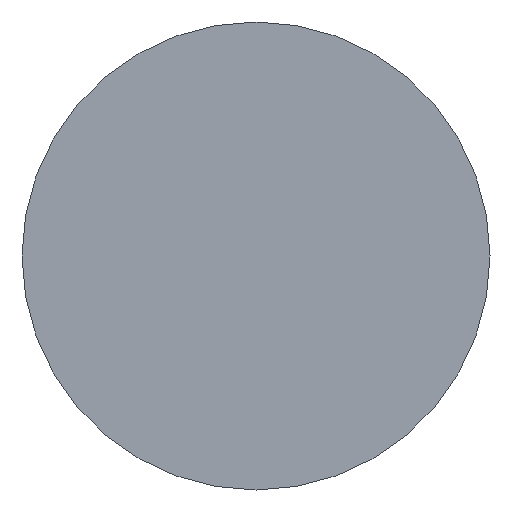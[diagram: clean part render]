
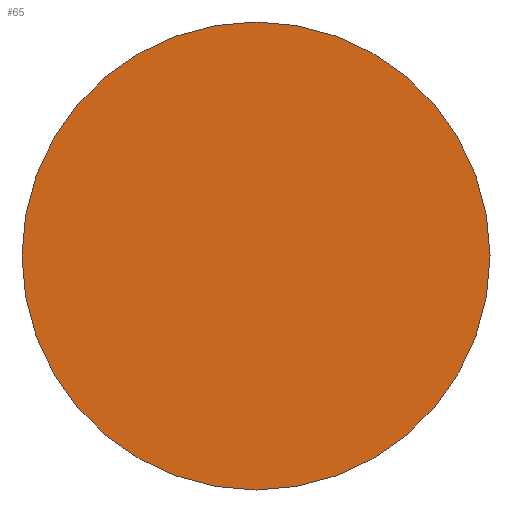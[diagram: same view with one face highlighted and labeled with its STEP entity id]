
A CAD part, left-side view. The second image highlights one B-rep face of the part: STEP entity #65.
In plain terms, the highlighted planar face has unit normal (-1, 0, 0).
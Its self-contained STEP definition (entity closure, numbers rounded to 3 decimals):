
#17 = VERTEX_POINT ( 'NONE', #239 ) ;
#27 = CIRCLE ( 'NONE', #121, 11. ) ;
#32 = VERTEX_POINT ( 'NONE', #115 ) ;
#65 = ADVANCED_FACE ( 'NONE', ( #113 ), #133, .T. ) ;
#94 = EDGE_CURVE ( 'NONE', #17, #32, #27, .T. ) ;
#97 = EDGE_CURVE ( 'NONE', #32, #17, #189, .T. ) ;
#113 = FACE_OUTER_BOUND ( 'NONE', #222, .T. ) ;
#115 = CARTESIAN_POINT ( 'NONE',  ( 0., -11., 0. ) ) ;
#119 = CARTESIAN_POINT ( 'NONE',  ( 0., 0., 0. ) ) ;
#121 = AXIS2_PLACEMENT_3D ( 'NONE', #220, #161, #230 ) ;
#123 = CARTESIAN_POINT ( 'NONE',  ( 0., 0., 0. ) ) ;
#129 = AXIS2_PLACEMENT_3D ( 'NONE', #119, #204, #215 ) ;
#133 = PLANE ( 'NONE',  #129 ) ;
#136 = ORIENTED_EDGE ( 'NONE', *, *, #97, .F. ) ;
#160 = ORIENTED_EDGE ( 'NONE', *, *, #94, .F. ) ;
#161 = DIRECTION ( 'NONE',  ( 1., 0., 0. ) ) ;
#183 = DIRECTION ( 'NONE',  ( 1., 0., 0. ) ) ;
#188 = DIRECTION ( 'NONE',  ( 0., 1., 0. ) ) ;
#189 = CIRCLE ( 'NONE', #256, 11. ) ;
#204 = DIRECTION ( 'NONE',  ( -1., 0., 0. ) ) ;
#215 = DIRECTION ( 'NONE',  ( 0., -1., 0. ) ) ;
#220 = CARTESIAN_POINT ( 'NONE',  ( 0., 0., 0. ) ) ;
#222 = EDGE_LOOP ( 'NONE', ( #160, #136 ) ) ;
#230 = DIRECTION ( 'NONE',  ( 0., 1., 0. ) ) ;
#239 = CARTESIAN_POINT ( 'NONE',  ( 0., 11., 0. ) ) ;
#256 = AXIS2_PLACEMENT_3D ( 'NONE', #123, #183, #188 ) ;
